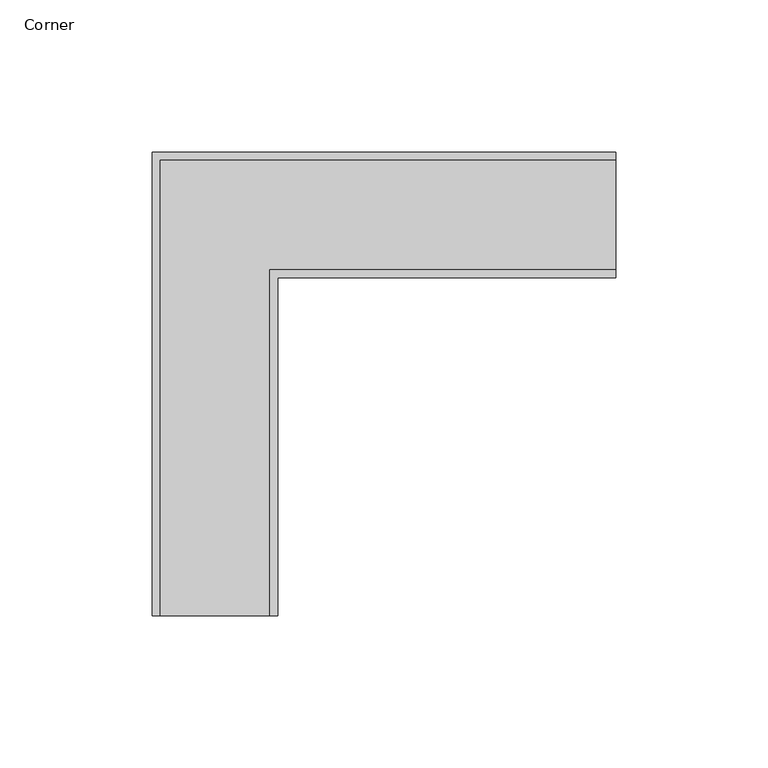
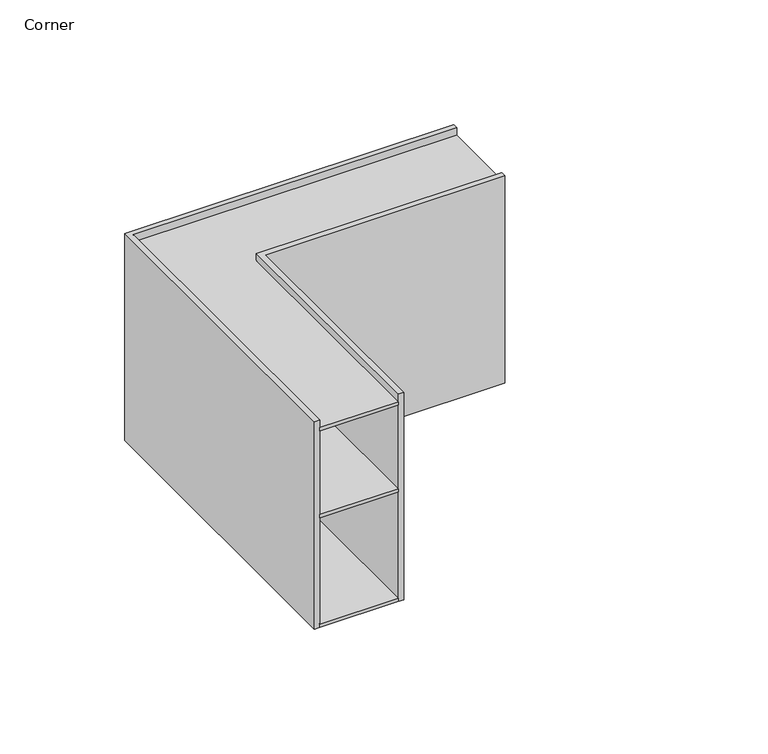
"""IFC4 building model written with IfcOpenShell, lengths in millimetres: light fixture geometry, Lighting-Recessed-Betacalco-Block-Corner : Corner."""

from ifc_helpers import new_model, si_unit, frame, origin, place, context, project, spatial, polyline, circle_curve, outline, extrude, source, transform, mapped, element, save
from ifc_brep_helpers import plane_surface, cylinder_surface, advanced_brep


def corner_7a3cdc11(model_context):
    return source(origin(), model_context, "Body", "SolidModel", [
        advanced_brep(
        [(0.0, 0.0, -101.6), (-2.54, 0.0, -101.6), (2.54, 0.0, -101.6), (2.54, 0.0, -100.0125), (-2.54, 0.0, -100.0125), (0.0, 0.0, -100.0125)],
        [
            (0, 1),
            (1, 2, circle_curve(frame((0.0, 0.0, -101.6), z_axis=(0.0, 0.0, -1.0), x_axis=(-1.0, 0.0, 0.0)), 2.54)),
            (2, 0),
            (2, 1, circle_curve(frame((0.0, 0.0, -101.6), z_axis=(0.0, 0.0, -1.0), x_axis=(-1.0, 0.0, 0.0)), 2.54)),
            (3, 4, circle_curve(frame((0.0, 0.0, -100.0125), z_axis=(0.0, 0.0, 1.0), x_axis=(-1.0, 0.0, 0.0)), 2.54)),
            (4, 5),
            (5, 3),
            (4, 3, circle_curve(frame((0.0, 0.0, -100.0125), z_axis=(0.0, 0.0, 1.0), x_axis=(-1.0, 0.0, 0.0)), 2.54)),
            (1, 4),
            (3, 2),
        ],
        [
            plane_surface(frame((0.0, 0.0, -101.6), z_axis=(0.0, 0.0, -1.0), x_axis=(-1.0, 0.0, 0.0))),
            plane_surface(frame((0.0, 0.0, -100.0125), z_axis=(0.0, 0.0, 1.0), x_axis=(-1.0, 0.0, 0.0))),
            cylinder_surface(frame((0.0, 0.0, -97.162083), z_axis=(0.0, 0.0, -1.0), x_axis=(-1.0, 0.0, 0.0)), 2.54),
        ],
        [
            (0, [[1, 2, 3]]),
            (0, [[-3, 4, -1]]),
            (1, [[5, 6, 7]]),
            (1, [[8, -7, -6]]),
            (2, [[-2, 9, -5, 10]]),
            (2, [[-4, -10, -8, -9]]),
        ],
    ),
        extrude(outline(polyline([(131.7625, 18.0975), (131.7625, -18.0975), (18.0975, -18.0975), (18.0975, -131.7625), (-18.0975, -131.7625), (-18.0975, 18.0975), (131.7625, 18.0975)])), frame((0.0, 0.0, -101.6), z_axis=(0.0, 0.0, 1.0), x_axis=(1.0, 0.0, 0.0)), (0.0, 0.0, 1.0), 1.5875),
        extrude(outline(polyline([(131.7625, 18.0975), (131.7625, -18.0975), (18.0975, -18.0975), (18.0975, -131.7625), (-18.0975, -131.7625), (-18.0975, 18.0975), (131.7625, 18.0975)])), frame((0.0, 0.0, -47.912087), z_axis=(0.0, 0.0, 1.0), x_axis=(1.0, 0.0, 0.0)), (0.0, 0.0, 1.0), 1.5875),
        extrude(outline(polyline([(131.7625, 18.0975), (131.7625, -18.0975), (18.0975, -18.0975), (18.0975, -131.7625), (-18.0975, -131.7625), (-18.0975, 18.0975), (131.7625, 18.0975)])), frame((0.0, 0.0, -5.2904412), z_axis=(0.0, 0.0, 1.0), x_axis=(1.0, 0.0, 0.0)), (0.0, 0.0, 1.0), 1.5875),
        extrude(outline(polyline([(131.7625, 20.6375), (131.7625, 18.0975), (-18.0975, 18.0975), (-18.0975, -131.7625), (-20.6375, -131.7625), (-20.6375, 20.6375), (131.7625, 20.6375)])), frame((0.0, 0.0, -101.6), z_axis=(0.0, 0.0, 1.0), x_axis=(1.0, 0.0, 0.0)), (0.0, 0.0, 1.0), 101.6),
        extrude(outline(polyline([(131.7625, -18.0975), (131.7625, -20.6375), (20.6375, -20.6375), (20.6375, -131.7625), (18.0975, -131.7625), (18.0975, -18.0975), (131.7625, -18.0975)])), frame((0.0, 0.0, -101.6), z_axis=(0.0, 0.0, 1.0), x_axis=(1.0, 0.0, 0.0)), (0.0, 0.0, 1.0), 101.6),
    ])


if __name__ == "__main__":
    model = new_model("IFC4")
    model_context = context("Model", 3, world=origin())
    ifc_project = project(units=[si_unit("LENGTHUNIT", "METRE", prefix="MILLI")], contexts=[model_context])
    site = spatial("IfcSite", under=ifc_project)
    building = spatial("IfcBuilding", under=site)
    placement = place(None, origin())
    corner_shape = corner_7a3cdc11(model_context)
    element("IfcLightFixture", 1, ObjectType="Lighting-Recessed-Betacalco-Block-Corner : Corner", at=placement, inside=building, context=model_context, shape_type="MappedRepresentation", body=[
        mapped(corner_shape, transform((0.0, 0.0, 0.0), x_axis=(1.0, 0.0, 0.0), y_axis=(0.0, 1.0, 0.0), z_axis=(0.0, 0.0, 1.0))),
    ])
    save(model, "model.ifc")
